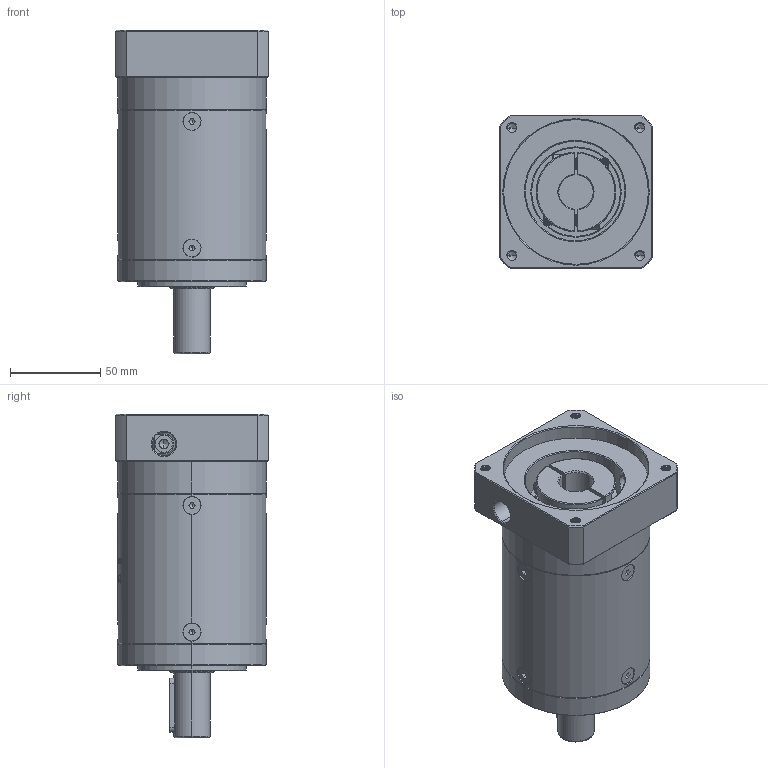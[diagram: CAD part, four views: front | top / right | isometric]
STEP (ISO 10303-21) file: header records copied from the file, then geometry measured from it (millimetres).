
FILE_DESCRIPTION (( 'STEP AP214' ), '1' );
FILE_NAME ('ZE80-D20-L3-19-80-100-M6.step', '2022-05-08T05:52:41', ( '' ), ( 'Microsoft' ), 'SwSTEP 2.0', 'SolidWorks 2016', '' );
FILE_SCHEMA (( 'AUTOMOTIVE_DESIGN' ));
Length unit declared in the file: millimetre
Products named in the file (1): ZE80-D20-L3-19-80-100-M6
Bounding box: 85 x 85 x 179 mm (x, y, z)
Volume: 714872.8 mm3; surface area: 95459.7 mm2
Topology: 13 solids, 13 shells, 2065 faces, 5367 edges, 3391 vertices
Faces by surface type: plane 891, cylinder 500, bspline 332, cone 325, torus 17
Entity records: 118316 total; most frequent: CARTESIAN_POINT 49408, ORIENTED_EDGE 10658, DIRECTION 8185, EDGE_CURVE 5329, VERTEX_POINT 3391, LINE 2861, VECTOR 2861, AXIS2_PLACEMENT_3D 2662
